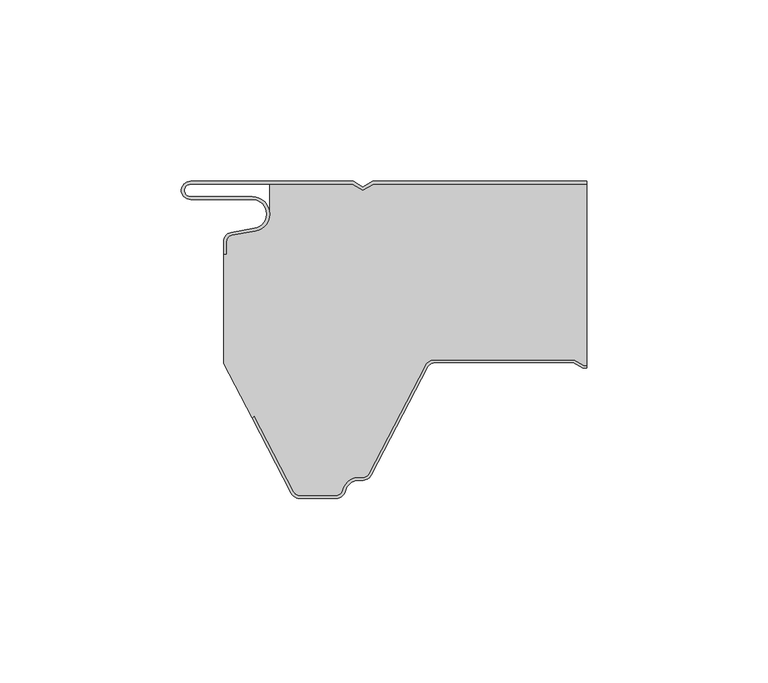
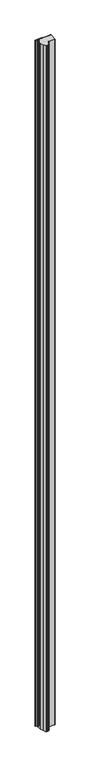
"""IFC4 building model written with IfcOpenShell, lengths in millimetres: plate geometry, P5G_5-Rib-Roof-Panel-PUR-PIR_Curtain-Panel : ACH_P5G_Rib-Roof-Panel-PIR-P5G_50mm."""

from ifc_helpers import new_model, si_unit, frame, origin, place, context, project, spatial, polyline, circle_curve, source, transform, mapped, element, save
from ifc_brep_helpers import plane_surface, cylinder_surface, revolved_surface, advanced_brep


def plate_abee4ffd(model_context):
    return source(origin(), model_context, "Body", "AdvancedBrep", [
        advanced_brep(
        [(-50.0, -16.636349, 5000.0), (-50.0, -20.0, 5000.0), (-49.2, -20.0, 5000.0), (-49.2, -16.636349, 5000.0), (-47.7125667, -14.863695, 5000.0), (-41.266489, -13.7270771, 5000.0), (-42.1, -4.2, 5000.0), (-59.1, -4.2, 5000.0), (-59.1, -0.8, 5000.0), (-14.5143588, -0.8, 5000.0), (-11.6, -2.4826072, 5000.0), (-8.6856412, -0.8, 5000.0), (50.0, -0.8, 5000.0), (50.0, 0.0, 5000.0), (-8.9000007, 0.0, 5000.0), (-11.6, -1.5588466, 5000.0), (-14.2999993, 0.0, 5000.0), (-59.1, 0.0, 5000.0), (-59.1, -5.0, 5000.0), (-42.1, -5.0, 5000.0), (-41.4054075, -12.939231, 5000.0), (-47.851485, -14.075848, 5000.0), (-50.0, -16.636349, 0.0), (-47.8514853, -14.0758488, 0.0), (-41.4054075, -12.9392309, 0.0), (-42.1, -5.0, 0.0), (-59.1, -5.0, 0.0), (-59.1, 0.0, 0.0), (-14.2999993, 0.0, 0.0), (-11.6, -1.5588466, 0.0), (-8.9000007, 0.0, 0.0), (50.0, 0.0, 0.0), (50.0, -0.8, 0.0), (-8.6856412, -0.8, 0.0), (-11.6, -2.4826072, 0.0), (-14.5143588, -0.8, 0.0), (-59.1, -0.8, 0.0), (-59.1, -4.2, 0.0), (-42.1, -4.2, 0.0), (-41.266489, -13.7270773, 0.0), (-47.7125665, -14.8636942, 0.0), (-49.2, -16.636349, 0.0), (-49.2, -20.0, 0.0), (-50.0, -20.0, 0.0)],
        [
            (0, 1),
            (1, 2),
            (2, 3),
            (3, 4, circle_curve(frame((-47.4, -16.636349, 5000.0), z_axis=(0.0, 0.0, -1.0), x_axis=(1.0, 0.0, 0.0)), 1.8)),
            (4, 5),
            (5, 6, circle_curve(frame((-42.1, -9.0, 5000.0), z_axis=(0.0, 0.0, 1.0), x_axis=(1.0, 0.0, 0.0)), 4.8)),
            (6, 7),
            (7, 8, circle_curve(frame((-59.1, -2.5, 5000.0), z_axis=(0.0, 0.0, -1.0), x_axis=(1.0, 0.0, 0.0)), 1.7)),
            (8, 9),
            (9, 10),
            (10, 11),
            (11, 12),
            (12, 13),
            (13, 14),
            (14, 15),
            (15, 16),
            (16, 17),
            (17, 18, circle_curve(frame((-59.1, -2.5, 5000.0), z_axis=(0.0, 0.0, 1.0), x_axis=(1.0, 0.0, 0.0)), 2.5)),
            (18, 19),
            (19, 20, circle_curve(frame((-42.1, -9.0, 5000.0), z_axis=(0.0, 0.0, -1.0), x_axis=(1.0, 0.0, 0.0)), 4.0)),
            (20, 21),
            (21, 0, circle_curve(frame((-47.4, -16.636349, 5000.0), z_axis=(0.0, 0.0, 1.0), x_axis=(1.0, 0.0, 0.0)), 2.6)),
            (22, 23, circle_curve(frame((-47.4, -16.636349, 0.0), z_axis=(0.0, 0.0, -1.0), x_axis=(1.0, 0.0, 0.0)), 2.6)),
            (23, 24),
            (24, 25, circle_curve(frame((-42.1, -9.0, 0.0), z_axis=(0.0, 0.0, 1.0), x_axis=(1.0, 0.0, 0.0)), 4.0)),
            (25, 26),
            (26, 27, circle_curve(frame((-59.1, -2.5, 0.0), z_axis=(0.0, 0.0, -1.0), x_axis=(1.0, 0.0, 0.0)), 2.5)),
            (27, 28),
            (28, 29),
            (29, 30),
            (30, 31),
            (31, 32),
            (32, 33),
            (33, 34),
            (34, 35),
            (35, 36),
            (36, 37, circle_curve(frame((-59.1, -2.5, 0.0), z_axis=(0.0, 0.0, 1.0), x_axis=(1.0, 0.0, 0.0)), 1.7)),
            (37, 38),
            (38, 39, circle_curve(frame((-42.1, -9.0, 0.0), z_axis=(0.0, 0.0, -1.0), x_axis=(1.0, 0.0, 0.0)), 4.8)),
            (39, 40),
            (40, 41, circle_curve(frame((-47.4, -16.636349, 0.0), z_axis=(0.0, 0.0, 1.0), x_axis=(1.0, 0.0, 0.0)), 1.8)),
            (41, 42),
            (42, 43),
            (43, 22),
            (0, 22),
            (43, 1),
            (42, 2),
            (41, 3),
            (40, 4),
            (39, 5),
            (38, 6),
            (37, 7),
            (36, 8),
            (35, 9),
            (34, 10),
            (33, 11),
            (32, 12),
            (30, 14),
            (13, 31),
            (29, 15),
            (28, 16),
            (27, 17),
            (26, 18),
            (25, 19),
            (24, 20),
            (23, 21),
        ],
        [
            plane_surface(frame((-50.0, 0.0, 5000.0), z_axis=(0.0, 0.0, 1.0), x_axis=(0.0, 1.0, 0.0))),
            plane_surface(frame((-50.0, 0.0, 0.0), z_axis=(0.0, 0.0, -1.0), x_axis=(0.0, 1.0, 0.0))),
            plane_surface(frame((-50.0, -16.636349, 5000.0), z_axis=(-1.0, 0.0, 0.0), x_axis=(0.0, 0.0, -1.0))),
            plane_surface(frame((-50.0, -20.0, 5000.0), z_axis=(0.0, -1.0, 0.0), x_axis=(0.0, 0.0, -1.0))),
            plane_surface(frame((-49.2, -20.0, 5000.0), z_axis=(1.0, 0.0, 0.0), x_axis=(0.0, 0.0, -1.0))),
            revolved_surface(polyline([(-45.6, -16.636349, 0.0), (-45.6, -16.636349, 5000.0)]), (-47.4, -16.636349, 5000.0), (0.0, 0.0, -1.0)),
            plane_surface(frame((-47.7125665, -14.8636942, 5000.0), z_axis=(0.17364813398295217, -0.9848077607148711, 0.0), x_axis=(0.0, 0.0, -1.0))),
            cylinder_surface(frame((-42.1, -9.0, 5000.0), z_axis=(0.0, 0.0, 1.0), x_axis=(1.0, 0.0, 0.0)), 4.8),
            plane_surface(frame((-42.1, -4.2, 5000.0), z_axis=(0.0, 1.0, 0.0), x_axis=(0.0, 0.0, -1.0))),
            revolved_surface(polyline([(-57.4, -2.5, 0.0), (-57.4, -2.5, 5000.0)]), (-59.1, -2.5, 5000.0), (0.0, 0.0, -1.0)),
            plane_surface(frame((-59.1, -0.8, 5000.0), z_axis=(0.0, -1.0, 0.0), x_axis=(0.0, 0.0, -1.0))),
            plane_surface(frame((-14.5143588, -0.8, 5000.0), z_axis=(-0.5000003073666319, -0.8660252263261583, 0.0), x_axis=(0.0, 0.0, -1.0))),
            plane_surface(frame((-11.6, -2.4826072, 5000.0), z_axis=(0.5000003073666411, -0.866025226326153, 0.0), x_axis=(0.0, 0.0, -1.0))),
            plane_surface(frame((-8.6856412, -0.8, 5000.0), z_axis=(0.0, -1.0, 0.0), x_axis=(0.0, 0.0, -1.0))),
            plane_surface(frame((85.7000007, 0.0, 5000.0), z_axis=(0.0, 1.0, 0.0), x_axis=(0.0, 0.0, -1.0))),
            plane_surface(frame((-8.9000007, 0.0, 5000.0), z_axis=(-0.5000003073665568, 0.8660252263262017, 0.0), x_axis=(0.0, 0.0, -1.0))),
            plane_surface(frame((-11.6, -1.5588466, 5000.0), z_axis=(0.5000003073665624, 0.8660252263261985, 0.0), x_axis=(0.0, 0.0, -1.0))),
            plane_surface(frame((-14.2999993, 0.0, 5000.0), z_axis=(0.0, 1.0, 0.0), x_axis=(0.0, 0.0, -1.0))),
            cylinder_surface(frame((-59.1, -2.5, 5000.0), z_axis=(0.0, 0.0, 1.0), x_axis=(1.0, 0.0, 0.0)), 2.5),
            plane_surface(frame((-59.1, -5.0, 5000.0), z_axis=(0.0, -1.0, 0.0), x_axis=(0.0, 0.0, -1.0))),
            revolved_surface(polyline([(-38.1, -9.0, 0.0), (-38.1, -9.0, 5000.0)]), (-42.1, -9.0, 5000.0), (0.0, 0.0, -1.0)),
            plane_surface(frame((-41.4054075, -12.9392309, 5000.0), z_axis=(-0.17364813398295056, 0.9848077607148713, 0.0), x_axis=(0.0, 0.0, -1.0))),
            cylinder_surface(frame((-47.4, -16.636349, 5000.0), z_axis=(0.0, 0.0, 1.0), x_axis=(1.0, 0.0, 0.0)), 2.6),
            plane_surface(frame((50.0, 0.0, 5000.0), z_axis=(1.0, 0.0, 0.0), x_axis=(0.0, 0.0, -1.0))),
        ],
        [
            (0, [[1, 2, 3, 4, 5, 6, 7, 8, 9, 10, 11, 12, 13, 14, 15, 16, 17, 18, 19, 20, 21, 22]]),
            (1, [[23, 24, 25, 26, 27, 28, 29, 30, 31, 32, 33, 34, 35, 36, 37, 38, 39, 40, 41, 42, 43, 44]]),
            (2, [[-1, 45, -44, 46]]),
            (3, [[-2, -46, -43, 47]]),
            (4, [[-3, -47, -42, 48]]),
            (5, [[-4, -48, -41, 49]]),
            (6, [[-5, -49, -40, 50]]),
            (7, [[-6, -50, -39, 51]]),
            (8, [[-7, -51, -38, 52]]),
            (9, [[-8, -52, -37, 53]]),
            (10, [[-9, -53, -36, 54]]),
            (11, [[-10, -54, -35, 55]]),
            (12, [[-11, -55, -34, 56]]),
            (13, [[-56, -33, 57, -12]]),
            (14, [[58, -14, 59, -31]]),
            (15, [[-15, -58, -30, 60]]),
            (16, [[-16, -60, -29, 61]]),
            (17, [[-17, -61, -28, 62]]),
            (18, [[-18, -62, -27, 63]]),
            (19, [[-19, -63, -26, 64]]),
            (20, [[-20, -64, -25, 65]]),
            (21, [[-21, -65, -24, 66]]),
            (22, [[-22, -66, -23, -45]]),
            (23, [[-13, -57, -32, -59]]),
        ],
    ),
        advanced_brep(
        [(-30.6207387, -85.6314818, 0.0), (-41.5569015, -64.6340495, 0.0), (-42.1499858, -65.2271753, 0.0), (-50.0, -50.1551481, 0.0), (-50.0, -20.0, 0.0), (-49.2, -20.0, 0.0), (-49.2, -16.636349, 0.0), (-47.7125653, -14.8636948, 0.0), (-41.2664891, -13.7270773, 0.0), (-37.3182654, -8.5816526, 0.0), (-37.3182654, -0.8, 0.0), (-14.5143588, -0.8, 0.0), (-11.6, -2.4826072, 0.0), (-8.6856412, -0.8, 0.0), (50.0, -0.8, 0.0), (50.0, -50.7, 0.0), (49.2107961, -50.7, 0.0), (46.6127185, -49.2, 0.0), (8.090871, -49.2, 0.0), (5.6075115, -50.7065836, 0.0), (-9.9783733, -80.6314825, 0.0), (-11.574819, -81.6, 0.0), (-12.6272901, -81.6, 0.0), (-17.2841077, -85.2363636, 0.0), (-19.030414, -86.5999997, 0.0), (-29.024293, -86.5999997, 0.0), (-30.6207383, -85.6314813, 5000.0), (-29.024293, -86.5999997, 5000.0), (-19.030414, -86.5999997, 5000.0), (-17.2841077, -85.2363636, 5000.0), (-12.6272901, -81.6, 5000.0), (-11.574819, -81.6, 5000.0), (-9.9783737, -80.631482, 5000.0), (5.6075107, -50.7065835, 5000.0), (8.090871, -49.2, 5000.0), (46.6127185, -49.2, 5000.0), (49.2107961, -50.7, 5000.0), (50.0, -50.7, 5000.0), (50.0, -0.8, 5000.0), (-8.6856412, -0.8, 5000.0), (-11.6, -2.4826072, 5000.0), (-14.5143588, -0.8, 5000.0), (-37.3182654, -0.8, 5000.0), (-37.3182654, -8.5816526, 5000.0), (-41.2664891, -13.7270773, 5000.0), (-47.7125651, -14.863694, 5000.0), (-49.2, -16.636349, 5000.0), (-49.2, -20.0, 5000.0), (-50.0, -20.0, 5000.0), (-50.0, -50.1551481, 5000.0), (-42.1499858, -65.2271753, 5000.0), (-41.5569015, -64.6340495, 5000.0)],
        [
            (0, 1),
            (1, 2),
            (2, 3),
            (3, 4),
            (4, 5),
            (5, 6),
            (6, 7, circle_curve(frame((-47.4, -16.636349, 0.0), z_axis=(0.0, 0.0, -1.0), x_axis=(-1.0, 0.0, 0.0)), 1.8)),
            (7, 8),
            (8, 9, circle_curve(frame((-42.1, -9.0, 0.0), z_axis=(0.0, 0.0, 1.0), x_axis=(-1.0, 0.0, 0.0)), 4.8)),
            (9, 10),
            (10, 11),
            (11, 12),
            (12, 13),
            (13, 14),
            (14, 15),
            (15, 16),
            (16, 17),
            (17, 18),
            (18, 19, circle_curve(frame((8.090871, -52.0, 0.0), z_axis=(0.0, 0.0, 1.0), x_axis=(-1.0, 0.0, 0.0)), 2.8)),
            (19, 20),
            (20, 21, circle_curve(frame((-11.574819, -79.8, 0.0), z_axis=(0.0, 0.0, -1.0), x_axis=(-1.0, 0.0, 0.0)), 1.8)),
            (21, 22),
            (22, 23, circle_curve(frame((-12.6272901, -86.4, 0.0), z_axis=(0.0, 0.0, 1.0), x_axis=(-1.0, 0.0, 0.0)), 4.8)),
            (23, 24, circle_curve(frame((-19.030414, -84.8, 0.0), z_axis=(0.0, 0.0, -1.0), x_axis=(-1.0, 0.0, 0.0)), 1.7999997)),
            (24, 25),
            (25, 0, circle_curve(frame((-29.024293, -84.8, 0.0), z_axis=(0.0, 0.0, -1.0), x_axis=(-1.0, 0.0, 0.0)), 1.7999997)),
            (26, 27, circle_curve(frame((-29.024293, -84.8, 5000.0), z_axis=(0.0, 0.0, 1.0), x_axis=(-1.0, 0.0, 0.0)), 1.7999997)),
            (27, 28),
            (28, 29, circle_curve(frame((-19.030414, -84.8, 5000.0), z_axis=(0.0, 0.0, 1.0), x_axis=(-1.0, 0.0, 0.0)), 1.7999997)),
            (29, 30, circle_curve(frame((-12.6272901, -86.4, 5000.0), z_axis=(0.0, 0.0, -1.0), x_axis=(-1.0, 0.0, 0.0)), 4.8)),
            (30, 31),
            (31, 32, circle_curve(frame((-11.574819, -79.8, 5000.0), z_axis=(0.0, 0.0, 1.0), x_axis=(-1.0, 0.0, 0.0)), 1.8)),
            (32, 33),
            (33, 34, circle_curve(frame((8.090871, -52.0, 5000.0), z_axis=(0.0, 0.0, -1.0), x_axis=(-1.0, 0.0, 0.0)), 2.8)),
            (34, 35),
            (35, 36),
            (36, 37),
            (37, 38),
            (38, 39),
            (39, 40),
            (40, 41),
            (41, 42),
            (42, 43),
            (43, 44, circle_curve(frame((-42.1, -9.0, 5000.0), z_axis=(0.0, 0.0, -1.0), x_axis=(-1.0, 0.0, 0.0)), 4.8)),
            (44, 45),
            (45, 46, circle_curve(frame((-47.4, -16.636349, 5000.0), z_axis=(0.0, 0.0, 1.0), x_axis=(-1.0, 0.0, 0.0)), 1.8)),
            (46, 47),
            (47, 48),
            (48, 49),
            (49, 50),
            (50, 51),
            (51, 26),
            (0, 26),
            (51, 1),
            (50, 2),
            (49, 3),
            (48, 4),
            (47, 5),
            (46, 6),
            (45, 7),
            (44, 8),
            (43, 9),
            (42, 10),
            (41, 11),
            (40, 12),
            (39, 13),
            (38, 14),
            (36, 16),
            (15, 37),
            (35, 17),
            (34, 18),
            (33, 19),
            (32, 20),
            (31, 21),
            (30, 22),
            (29, 23),
            (28, 24),
            (27, 25),
        ],
        [
            plane_surface(frame((-50.0, 0.0, 0.0), z_axis=(0.0, 0.0, -1.0), x_axis=(0.0, 1.0, 0.0))),
            plane_surface(frame((-50.0, 0.0, 5000.0), z_axis=(0.0, 0.0, 1.0), x_axis=(0.0, 1.0, 0.0))),
            plane_surface(frame((-30.6207387, -85.6314818, 0.0), z_axis=(-0.8869140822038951, -0.4619344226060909, 0.0), x_axis=(0.0, 0.0, 1.0))),
            plane_surface(frame((-41.5569015, -64.6340495, 0.0), z_axis=(0.7071314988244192, -0.7070820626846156, 0.0), x_axis=(0.0, 0.0, 1.0))),
            plane_surface(frame((-42.1499858, -65.2271753, 0.0), z_axis=(-0.8869140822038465, -0.46193442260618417, 0.0), x_axis=(0.0, 0.0, 1.0))),
            plane_surface(frame((-50.0, -50.1551481, 0.0), z_axis=(-1.0, 0.0, 0.0), x_axis=(0.0, 0.0, 1.0))),
            plane_surface(frame((-50.0, -20.0, 0.0), z_axis=(0.0, 1.0, 0.0), x_axis=(0.0, 0.0, 1.0))),
            plane_surface(frame((-49.2, -20.0, 0.0), z_axis=(-1.0, 0.0, 0.0), x_axis=(0.0, 0.0, 1.0))),
            cylinder_surface(frame((-47.4, -16.636349, 0.0), z_axis=(0.0, 0.0, -1.0), x_axis=(-1.0, 0.0, 0.0)), 1.8),
            plane_surface(frame((-47.7125651, -14.863694, 0.0), z_axis=(-0.17364811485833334, 0.9848077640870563, 0.0), x_axis=(0.0, 0.0, 1.0))),
            revolved_surface(polyline([(-46.9, -9.0, 5000.0), (-46.9, -9.0, 0.0)]), (-42.1, -9.0, 0.0), (0.0, 0.0, 1.0)),
            plane_surface(frame((-37.3182654, -8.5816526, 0.0), z_axis=(-1.0, 0.0, 0.0), x_axis=(0.0, 0.0, 1.0))),
            plane_surface(frame((-37.3182654, -0.8, 0.0), z_axis=(0.0, 1.0, 0.0), x_axis=(0.0, 0.0, 1.0))),
            plane_surface(frame((-14.5143588, -0.8, 0.0), z_axis=(0.500000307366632, 0.8660252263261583, 0.0), x_axis=(0.0, 0.0, 1.0))),
            plane_surface(frame((-11.6, -2.4826072, 0.0), z_axis=(-0.500000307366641, 0.8660252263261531, 0.0), x_axis=(0.0, 0.0, 1.0))),
            plane_surface(frame((-8.6856412, -0.8, 0.0), z_axis=(0.0, 1.0, 0.0), x_axis=(0.0, 0.0, 1.0))),
            plane_surface(frame((81.5859248, -50.7, 0.0), z_axis=(0.0, -1.0, 0.0), x_axis=(0.0, 0.0, 1.0))),
            plane_surface(frame((49.2107961, -50.7, 0.0), z_axis=(-0.49999979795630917, -0.8660255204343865, 0.0), x_axis=(0.0, 0.0, 1.0))),
            plane_surface(frame((46.6127185, -49.2, 0.0), z_axis=(0.0, -1.0, 0.0), x_axis=(0.0, 0.0, 1.0))),
            revolved_surface(polyline([(5.290871, -52.0, 5000.0), (5.290871, -52.0, 0.0)]), (8.090871, -52.0, 0.0), (0.0, 0.0, 1.0)),
            plane_surface(frame((5.6075107, -50.7065835, 0.0), z_axis=(0.8869140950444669, -0.46193439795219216, 0.0), x_axis=(0.0, 0.0, 1.0))),
            cylinder_surface(frame((-11.574819, -79.8, 0.0), z_axis=(0.0, 0.0, -1.0), x_axis=(-1.0, 0.0, 0.0)), 1.8),
            plane_surface(frame((-11.574819, -81.6, 0.0), z_axis=(0.0, -1.0, 0.0), x_axis=(0.0, 0.0, 1.0))),
            revolved_surface(polyline([(-17.4272901, -86.4, 5000.0), (-17.4272901, -86.4, 0.0)]), (-12.6272901, -86.4, 0.0), (0.0, 0.0, 1.0)),
            cylinder_surface(frame((-19.030414, -84.8, 0.0), z_axis=(0.0, 0.0, -1.0), x_axis=(-1.0, 0.0, 0.0)), 1.7999997),
            plane_surface(frame((-19.030414, -86.5999997, 0.0), z_axis=(0.0, -1.0, 0.0), x_axis=(0.0, 0.0, 1.0))),
            cylinder_surface(frame((-29.024293, -84.8, 0.0), z_axis=(0.0, 0.0, -1.0), x_axis=(-1.0, 0.0, 0.0)), 1.7999997),
            plane_surface(frame((50.0, 0.0, 5000.0), z_axis=(1.0, 0.0, 0.0), x_axis=(0.0, 0.0, -1.0))),
        ],
        [
            (0, [[1, 2, 3, 4, 5, 6, 7, 8, 9, 10, 11, 12, 13, 14, 15, 16, 17, 18, 19, 20, 21, 22, 23, 24, 25, 26]]),
            (1, [[27, 28, 29, 30, 31, 32, 33, 34, 35, 36, 37, 38, 39, 40, 41, 42, 43, 44, 45, 46, 47, 48, 49, 50, 51, 52]]),
            (2, [[-1, 53, -52, 54]]),
            (3, [[-2, -54, -51, 55]]),
            (4, [[-3, -55, -50, 56]]),
            (5, [[-4, -56, -49, 57]]),
            (6, [[-5, -57, -48, 58]]),
            (7, [[-6, -58, -47, 59]]),
            (8, [[-7, -59, -46, 60]]),
            (9, [[-8, -60, -45, 61]]),
            (10, [[-9, -61, -44, 62]]),
            (11, [[-10, -62, -43, 63]]),
            (12, [[-11, -63, -42, 64]]),
            (13, [[-12, -64, -41, 65]]),
            (14, [[-13, -65, -40, 66]]),
            (15, [[-66, -39, 67, -14]]),
            (16, [[68, -16, 69, -37]]),
            (17, [[-17, -68, -36, 70]]),
            (18, [[-18, -70, -35, 71]]),
            (19, [[-19, -71, -34, 72]]),
            (20, [[-20, -72, -33, 73]]),
            (21, [[-21, -73, -32, 74]]),
            (22, [[-22, -74, -31, 75]]),
            (23, [[-23, -75, -30, 76]]),
            (24, [[-24, -76, -29, 77]]),
            (25, [[-25, -77, -28, 78]]),
            (26, [[-26, -78, -27, -53]]),
            (27, [[-15, -67, -38, -69]]),
        ],
    ),
        advanced_brep(
        [(49.2107962, -50.7, 5000.0), (46.6127186, -49.2, 5000.0), (8.090871, -49.2, 5000.0), (5.6075116, -50.7065836, 5000.0), (-9.9783733, -80.6314825, 5000.0), (-11.574819, -81.6, 5000.0), (-12.62729, -81.6, 5000.0), (-17.2841076, -85.2363636, 5000.0), (-19.030414, -86.6, 5000.0), (-29.024293, -86.6, 5000.0), (-30.6207383, -85.631482, 5000.0), (-41.5569015, -64.6340495, 5000.0), (-42.15, -65.227148, 5000.0), (-31.33027, -86.00103, 5000.0), (-29.024293, -87.4, 5000.0), (-19.030414, -87.4, 5000.0), (-16.5079711, -85.4303031, 5000.0), (-12.62729, -82.4, 5000.0), (-11.574819, -82.4, 5000.0), (-9.2688424, -81.0010295, 5000.0), (6.317042, -51.076131, 5000.0), (8.090871, -50.0, 5000.0), (46.3983593, -50.0, 5000.0), (48.9964369, -51.5, 5000.0), (50.0, -51.5, 5000.0), (50.0, -50.7, 5000.0), (48.9964369, -51.5, 0.0), (46.3983593, -50.0, 0.0), (8.090871, -50.0, 0.0), (6.3170428, -51.0761312, 0.0), (-9.268842, -81.00103, 0.0), (-11.574819, -82.4, 0.0), (-12.62729, -82.4, 0.0), (-16.5079713, -85.430303, 0.0), (-19.030414, -87.4, 0.0), (-29.024293, -87.4, 0.0), (-31.3302696, -86.0010295, 0.0), (-42.15, -65.227148, 0.0), (-41.5569015, -64.6340495, 0.0), (-30.6207387, -85.6314825, 0.0), (-29.024293, -86.6, 0.0), (-19.030414, -86.6, 0.0), (-17.2841074, -85.2363637, 0.0), (-12.62729, -81.6, 0.0), (-11.574819, -81.6, 0.0), (-9.9783737, -80.631482, 0.0), (5.6075107, -50.7065835, 0.0), (8.090871, -49.2, 0.0), (46.6127186, -49.2, 0.0), (49.2107962, -50.7, 0.0), (50.0, -50.7, 0.0), (50.0, -51.5, 0.0)],
        [
            (0, 1),
            (1, 2),
            (2, 3, circle_curve(frame((8.090871, -52.0, 5000.0), z_axis=(0.0, 0.0, 1.0), x_axis=(1.0, 0.0, 0.0)), 2.8)),
            (3, 4),
            (4, 5, circle_curve(frame((-11.574819, -79.8, 5000.0), z_axis=(0.0, 0.0, -1.0), x_axis=(1.0, 0.0, 0.0)), 1.8)),
            (5, 6),
            (6, 7, circle_curve(frame((-12.62729, -86.4, 5000.0), z_axis=(0.0, 0.0, 1.0), x_axis=(1.0, 0.0, 0.0)), 4.8)),
            (7, 8, circle_curve(frame((-19.030414, -84.8, 5000.0), z_axis=(0.0, 0.0, -1.0), x_axis=(1.0, 0.0, 0.0)), 1.8)),
            (8, 9),
            (9, 10, circle_curve(frame((-29.024293, -84.8, 5000.0), z_axis=(0.0, 0.0, -1.0), x_axis=(1.0, 0.0, 0.0)), 1.8)),
            (10, 11),
            (11, 12),
            (12, 13),
            (13, 14, circle_curve(frame((-29.024293, -84.8, 5000.0), z_axis=(0.0, 0.0, 1.0), x_axis=(1.0, 0.0, 0.0)), 2.6)),
            (14, 15),
            (15, 16, circle_curve(frame((-19.030414, -84.8, 5000.0), z_axis=(0.0, 0.0, 1.0), x_axis=(1.0, 0.0, 0.0)), 2.6)),
            (16, 17, circle_curve(frame((-12.62729, -86.4, 5000.0), z_axis=(0.0, 0.0, -1.0), x_axis=(1.0, 0.0, 0.0)), 4.0)),
            (17, 18),
            (18, 19, circle_curve(frame((-11.574819, -79.8, 5000.0), z_axis=(0.0, 0.0, 1.0), x_axis=(1.0, 0.0, 0.0)), 2.6)),
            (19, 20),
            (20, 21, circle_curve(frame((8.090871, -52.0, 5000.0), z_axis=(0.0, 0.0, -1.0), x_axis=(1.0, 0.0, 0.0)), 2.0)),
            (21, 22),
            (22, 23),
            (23, 24),
            (24, 25),
            (25, 0),
            (26, 27),
            (27, 28),
            (28, 29, circle_curve(frame((8.090871, -52.0, 0.0), z_axis=(0.0, 0.0, 1.0), x_axis=(1.0, 0.0, 0.0)), 2.0)),
            (29, 30),
            (30, 31, circle_curve(frame((-11.574819, -79.8, 0.0), z_axis=(0.0, 0.0, -1.0), x_axis=(1.0, 0.0, 0.0)), 2.6)),
            (31, 32),
            (32, 33, circle_curve(frame((-12.62729, -86.4, 0.0), z_axis=(0.0, 0.0, 1.0), x_axis=(1.0, 0.0, 0.0)), 4.0)),
            (33, 34, circle_curve(frame((-19.030414, -84.8, 0.0), z_axis=(0.0, 0.0, -1.0), x_axis=(1.0, 0.0, 0.0)), 2.6)),
            (34, 35),
            (35, 36, circle_curve(frame((-29.024293, -84.8, 0.0), z_axis=(0.0, 0.0, -1.0), x_axis=(1.0, 0.0, 0.0)), 2.6)),
            (36, 37),
            (37, 38),
            (38, 39),
            (39, 40, circle_curve(frame((-29.024293, -84.8, 0.0), z_axis=(0.0, 0.0, 1.0), x_axis=(1.0, 0.0, 0.0)), 1.8)),
            (40, 41),
            (41, 42, circle_curve(frame((-19.030414, -84.8, 0.0), z_axis=(0.0, 0.0, 1.0), x_axis=(1.0, 0.0, 0.0)), 1.8)),
            (42, 43, circle_curve(frame((-12.62729, -86.4, 0.0), z_axis=(0.0, 0.0, -1.0), x_axis=(1.0, 0.0, 0.0)), 4.8)),
            (43, 44),
            (44, 45, circle_curve(frame((-11.574819, -79.8, 0.0), z_axis=(0.0, 0.0, 1.0), x_axis=(1.0, 0.0, 0.0)), 1.8)),
            (45, 46),
            (46, 47, circle_curve(frame((8.090871, -52.0, 0.0), z_axis=(0.0, 0.0, -1.0), x_axis=(1.0, 0.0, 0.0)), 2.8)),
            (47, 48),
            (48, 49),
            (49, 50),
            (50, 51),
            (51, 26),
            (49, 0),
            (25, 50),
            (48, 1),
            (47, 2),
            (46, 3),
            (45, 4),
            (44, 5),
            (43, 6),
            (42, 7),
            (41, 8),
            (40, 9),
            (39, 10),
            (38, 11),
            (37, 12),
            (36, 13),
            (35, 14),
            (34, 15),
            (33, 16),
            (32, 17),
            (31, 18),
            (30, 19),
            (29, 20),
            (28, 21),
            (27, 22),
            (26, 23),
            (51, 24),
        ],
        [
            plane_surface(frame((-50.0, -50.0, 5000.0), z_axis=(0.0, 0.0, 1.0), x_axis=(0.0, 1.0, 0.0))),
            plane_surface(frame((-50.0, -50.0, 0.0), z_axis=(0.0, 0.0, -1.0), x_axis=(0.0, 1.0, 0.0))),
            plane_surface(frame((81.5859248, -50.7, 5000.0), z_axis=(0.0, 1.0, 0.0), x_axis=(0.0, 0.0, -1.0))),
            plane_surface(frame((49.2107962, -50.7, 5000.0), z_axis=(0.4999997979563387, 0.8660255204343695, 0.0), x_axis=(0.0, 0.0, -1.0))),
            plane_surface(frame((46.6127186, -49.2, 5000.0), z_axis=(0.0, 1.0, 0.0), x_axis=(0.0, 0.0, -1.0))),
            cylinder_surface(frame((8.090871, -52.0, 5000.0), z_axis=(0.0, 0.0, 1.0), x_axis=(1.0, 0.0, 0.0)), 2.8),
            plane_surface(frame((5.6075107, -50.7065835, 5000.0), z_axis=(-0.8869140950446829, 0.4619343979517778, 0.0), x_axis=(0.0, 0.0, -1.0))),
            revolved_surface(polyline([(-9.774818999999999, -79.8, 0.0), (-9.774818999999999, -79.8, 5000.0)]), (-11.574819, -79.8, 5000.0), (0.0, 0.0, -1.0)),
            plane_surface(frame((-11.574819, -81.6, 5000.0), z_axis=(0.0, 1.0, 0.0), x_axis=(0.0, 0.0, -1.0))),
            cylinder_surface(frame((-12.62729, -86.4, 5000.0), z_axis=(0.0, 0.0, 1.0), x_axis=(1.0, 0.0, 0.0)), 4.8),
            revolved_surface(polyline([(-17.230414, -84.8, 0.0), (-17.230414, -84.8, 5000.0)]), (-19.030414, -84.8, 5000.0), (0.0, 0.0, -1.0)),
            plane_surface(frame((-19.030414, -86.6, 5000.0), z_axis=(0.0, 1.0, 0.0), x_axis=(0.0, 0.0, -1.0))),
            revolved_surface(polyline([(-27.224293, -84.8, 0.0), (-27.224293, -84.8, 5000.0)]), (-29.024293, -84.8, 5000.0), (0.0, 0.0, -1.0)),
            plane_surface(frame((-30.6207387, -85.6314825, 5000.0), z_axis=(0.8869140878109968, 0.46193441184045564, 0.0), x_axis=(0.0, 0.0, -1.0))),
            plane_surface(frame((-41.5569015, -64.6340495, 5000.0), z_axis=(-0.7071067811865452, 0.7071067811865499, 0.0), x_axis=(0.0, 0.0, -1.0))),
            plane_surface(frame((-42.15, -65.227148, 5000.0), z_axis=(-0.8869140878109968, -0.46193441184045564, 0.0), x_axis=(0.0, 0.0, -1.0))),
            cylinder_surface(frame((-29.024293, -84.8, 5000.0), z_axis=(0.0, 0.0, 1.0), x_axis=(1.0, 0.0, 0.0)), 2.6),
            plane_surface(frame((-29.024293, -87.4, 5000.0), z_axis=(0.0, -1.0, 0.0), x_axis=(0.0, 0.0, -1.0))),
            cylinder_surface(frame((-19.030414, -84.8, 5000.0), z_axis=(0.0, 0.0, 1.0), x_axis=(1.0, 0.0, 0.0)), 2.6),
            revolved_surface(polyline([(-8.62729, -86.4, 0.0), (-8.62729, -86.4, 5000.0)]), (-12.62729, -86.4, 5000.0), (0.0, 0.0, -1.0)),
            plane_surface(frame((-12.62729, -82.4, 5000.0), z_axis=(0.0, -1.0, 0.0), x_axis=(0.0, 0.0, -1.0))),
            cylinder_surface(frame((-11.574819, -79.8, 5000.0), z_axis=(0.0, 0.0, 1.0), x_axis=(1.0, 0.0, 0.0)), 2.6),
            plane_surface(frame((-9.268842, -81.00103, 5000.0), z_axis=(0.8869140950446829, -0.4619343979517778, 0.0), x_axis=(0.0, 0.0, -1.0))),
            revolved_surface(polyline([(10.090871, -52.0, 0.0), (10.090871, -52.0, 5000.0)]), (8.090871, -52.0, 5000.0), (0.0, 0.0, -1.0)),
            plane_surface(frame((8.090871, -50.0, 5000.0), z_axis=(0.0, -1.0, 0.0), x_axis=(0.0, 0.0, -1.0))),
            plane_surface(frame((46.3983593, -50.0, 5000.0), z_axis=(-0.4999997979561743, -0.8660255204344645, 0.0), x_axis=(0.0, 0.0, -1.0))),
            plane_surface(frame((48.9964369, -51.5, 5000.0), z_axis=(0.0, -1.0, 0.0), x_axis=(0.0, 0.0, -1.0))),
            plane_surface(frame((50.0, 0.0, 5000.0), z_axis=(1.0, 0.0, 0.0), x_axis=(0.0, 0.0, -1.0))),
        ],
        [
            (0, [[1, 2, 3, 4, 5, 6, 7, 8, 9, 10, 11, 12, 13, 14, 15, 16, 17, 18, 19, 20, 21, 22, 23, 24, 25, 26]]),
            (1, [[27, 28, 29, 30, 31, 32, 33, 34, 35, 36, 37, 38, 39, 40, 41, 42, 43, 44, 45, 46, 47, 48, 49, 50, 51, 52]]),
            (2, [[53, -26, 54, -50]]),
            (3, [[-1, -53, -49, 55]]),
            (4, [[-2, -55, -48, 56]]),
            (5, [[-3, -56, -47, 57]]),
            (6, [[-4, -57, -46, 58]]),
            (7, [[-5, -58, -45, 59]]),
            (8, [[-6, -59, -44, 60]]),
            (9, [[-7, -60, -43, 61]]),
            (10, [[-8, -61, -42, 62]]),
            (11, [[-9, -62, -41, 63]]),
            (12, [[-10, -63, -40, 64]]),
            (13, [[-11, -64, -39, 65]]),
            (14, [[-12, -65, -38, 66]]),
            (15, [[-13, -66, -37, 67]]),
            (16, [[-14, -67, -36, 68]]),
            (17, [[-15, -68, -35, 69]]),
            (18, [[-16, -69, -34, 70]]),
            (19, [[-17, -70, -33, 71]]),
            (20, [[-18, -71, -32, 72]]),
            (21, [[-19, -72, -31, 73]]),
            (22, [[-20, -73, -30, 74]]),
            (23, [[-21, -74, -29, 75]]),
            (24, [[-22, -75, -28, 76]]),
            (25, [[-23, -76, -27, 77]]),
            (26, [[-77, -52, 78, -24]]),
            (27, [[-25, -78, -51, -54]]),
        ],
    ),
    ])


if __name__ == "__main__":
    model = new_model("IFC4")
    model_context = context("Model", 3, world=origin())
    ifc_project = project(units=[si_unit("LENGTHUNIT", "METRE", prefix="MILLI")], contexts=[model_context])
    site = spatial("IfcSite", under=ifc_project)
    building = spatial("IfcBuilding", under=site)
    placement = place(None, origin())
    plate_shape = plate_abee4ffd(model_context)
    element("IfcPlate", 1, ObjectType="P5G_5-Rib-Roof-Panel-PUR-PIR_Curtain-Panel : ACH_P5G_Rib-Roof-Panel-PIR-P5G_50mm", at=placement, inside=building, context=model_context, shape_type="MappedRepresentation", body=[
        mapped(plate_shape, transform((0.0, 0.0, 0.0), x_axis=(1.0, 0.0, 0.0), y_axis=(0.0, 1.0, 0.0), z_axis=(0.0, 0.0, 1.0))),
    ])
    save(model, "model.ifc")
